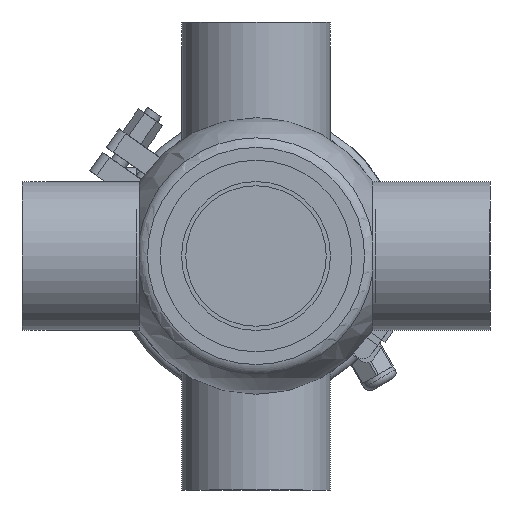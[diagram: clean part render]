
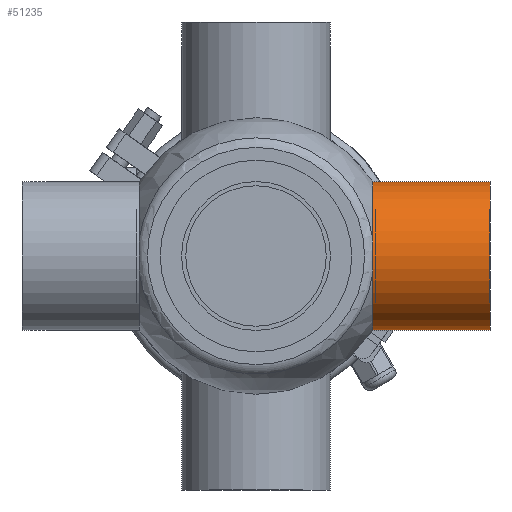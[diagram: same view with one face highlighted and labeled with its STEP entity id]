
A CAD part, front view. The second image highlights one B-rep face of the part: STEP entity #51235.
In plain terms, the highlighted cylindrical face has radius 35 mm (diameter 70 mm), a full revolution.
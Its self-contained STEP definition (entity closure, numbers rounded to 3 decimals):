
#4694 = VERTEX_POINT ( 'NONE', #15256 ) ;
#10722 = FACE_OUTER_BOUND ( 'NONE', #43278, .T. ) ;
#15256 = CARTESIAN_POINT ( 'NONE',  ( 55., 0., 35. ) ) ;
#15665 = CARTESIAN_POINT ( 'NONE',  ( 0., 0., 0. ) ) ;
#15959 = FACE_OUTER_BOUND ( 'NONE', #53559, .T. ) ;
#16617 = DIRECTION ( 'NONE',  ( -1., 0., 0. ) ) ;
#17345 = EDGE_CURVE ( 'NONE', #4694, #4694, #47295, .T. ) ;
#22306 = DIRECTION ( 'NONE',  ( 0., 0., 1. ) ) ;
#29962 = DIRECTION ( 'NONE',  ( -1., 0., 0. ) ) ;
#30758 = CARTESIAN_POINT ( 'NONE',  ( 110., 0., 35. ) ) ;
#31313 = CIRCLE ( 'NONE', #45188, 35. ) ;
#33619 = ORIENTED_EDGE ( 'NONE', *, *, #36496, .T. ) ;
#34813 = VERTEX_POINT ( 'NONE', #30758 ) ;
#36200 = CARTESIAN_POINT ( 'NONE',  ( 55., 0., 0. ) ) ;
#36496 = EDGE_CURVE ( 'NONE', #34813, #34813, #31313, .T. ) ;
#41634 = DIRECTION ( 'NONE',  ( -1., 0., 0. ) ) ;
#43119 = ORIENTED_EDGE ( 'NONE', *, *, #17345, .F. ) ;
#43278 = EDGE_LOOP ( 'NONE', ( #33619 ) ) ;
#44955 = AXIS2_PLACEMENT_3D ( 'NONE', #15665, #29962, #48918 ) ;
#45188 = AXIS2_PLACEMENT_3D ( 'NONE', #55642, #41634, #22306 ) ;
#45828 = DIRECTION ( 'NONE',  ( 0., 0., 1. ) ) ;
#47295 = CIRCLE ( 'NONE', #58271, 35. ) ;
#48918 = DIRECTION ( 'NONE',  ( 0., 0., 1. ) ) ;
#51235 = ADVANCED_FACE ( 'NONE', ( #10722, #15959 ), #58301, .T. ) ;
#53559 = EDGE_LOOP ( 'NONE', ( #43119 ) ) ;
#55642 = CARTESIAN_POINT ( 'NONE',  ( 110., 0., 0. ) ) ;
#58271 = AXIS2_PLACEMENT_3D ( 'NONE', #36200, #16617, #45828 ) ;
#58301 = CYLINDRICAL_SURFACE ( 'NONE', #44955, 35. ) ;
